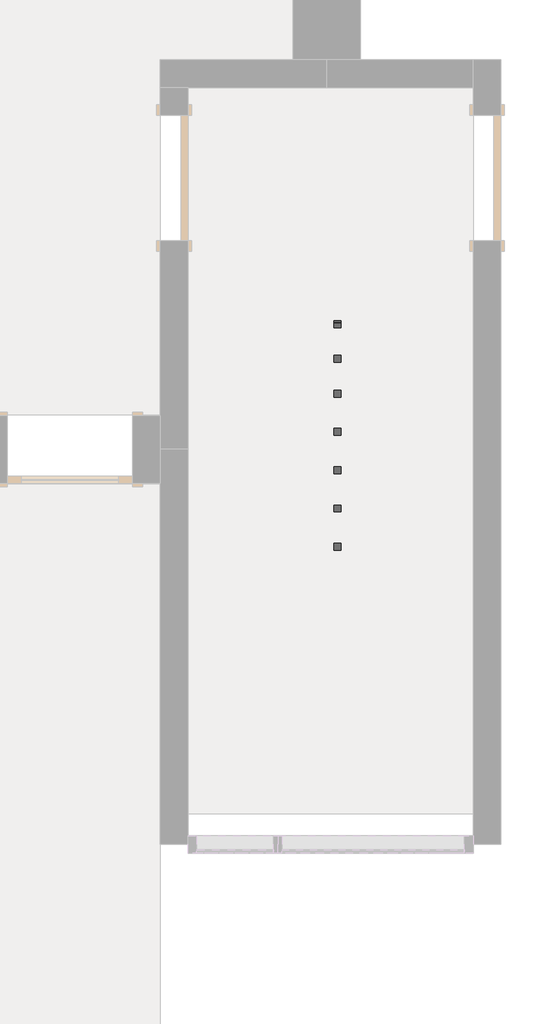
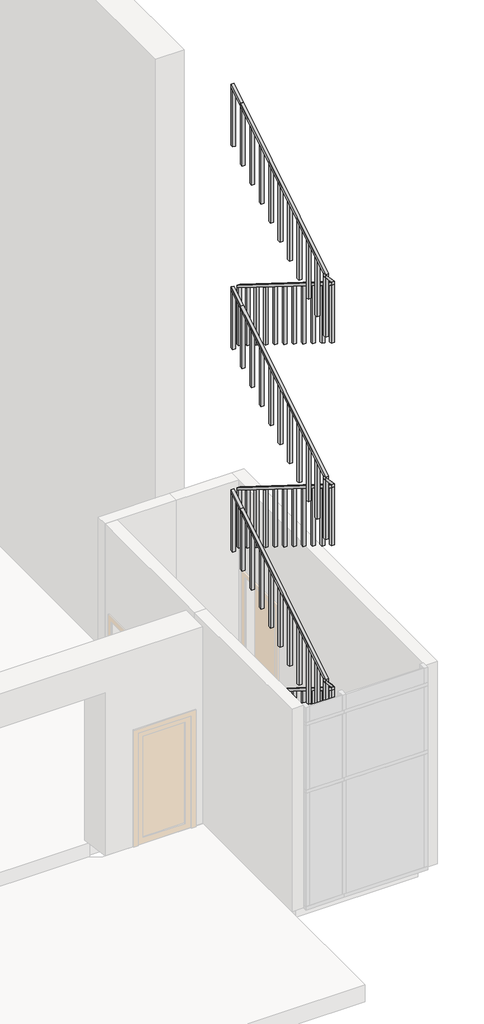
# One storey, part 4 of 4: 1 railing.
"""IFC4 building model written with IfcOpenShell, lengths in millimetres."""

from ifc_helpers import new_model, si_unit, frame, origin, place, context, project, spatial, polyline, outline, extrude, element, save

model = new_model("IFC4")

# Units and contexts
model_context = context("Model", 3, world=origin())
ifc_project = project(units=[si_unit("LENGTHUNIT", "METRE", prefix="MILLI")], contexts=[model_context])

# Site, building, storey
site = spatial("IfcSite", under=ifc_project)
building = spatial("IfcBuilding", under=site)
storey = spatial("IfcBuildingStorey", under=building, Name="1st Flr. Cnst.", Elevation=0.0)

# Railing
placement = place(None, origin())
element("IfcRailing", 1, ObjectType="Stairs Railing 1", at=placement, inside=storey, context=model_context, shape_type="SweptSolid", body=[
    extrude(outline(polyline([(-4763.1115872, 10247.0857143), (-4763.1115872, 10297.8857143), (-1969.1115872, 8556.1714286), (-1969.1115872, 8505.3714286), (-4763.1115872, 10247.0857143)])), frame((16839.9969357, 0.0, 0.0), z_axis=(1.0, 0.0, 0.0), x_axis=(0.0, 1.0, 0.0)), (0.0, 0.0, 1.0), 50.8),
    extrude(outline(polyline([(-1969.1115872, 8505.3714286), (-1969.1115872, 7489.3714286), (-2019.9115872, 7489.3714286), (-2019.9115872, 8537.038961), (-1969.1115872, 8505.3714286)])), frame((16839.9969357, 0.0, 0.0), z_axis=(1.0, 0.0, 0.0), x_axis=(0.0, 1.0, 0.0)), (0.0, 0.0, 1.0), 50.8),
    extrude(outline(polyline([(-2223.1115872, 8663.7090909), (-2223.1115872, 7647.7090909), (-2273.9115872, 7647.7090909), (-2273.9115872, 8695.3766234), (-2223.1115872, 8663.7090909)])), frame((16839.9969357, 0.0, 0.0), z_axis=(1.0, 0.0, 0.0), x_axis=(0.0, 1.0, 0.0)), (0.0, 0.0, 1.0), 50.8),
    extrude(outline(polyline([(-2477.1115872, 8822.0467532), (-2477.1115872, 7806.0467532), (-2527.9115872, 7806.0467532), (-2527.9115872, 8853.7142857), (-2477.1115872, 8822.0467532)])), frame((16839.9969357, 0.0, 0.0), z_axis=(1.0, 0.0, 0.0), x_axis=(0.0, 1.0, 0.0)), (0.0, 0.0, 1.0), 50.8),
    extrude(outline(polyline([(-2756.5115872, 8996.2181818), (-2756.5115872, 7980.2181818), (-2807.3115872, 7980.2181818), (-2807.3115872, 9027.8857143), (-2756.5115872, 8996.2181818)])), frame((16839.9969357, 0.0, 0.0), z_axis=(1.0, 0.0, 0.0), x_axis=(0.0, 1.0, 0.0)), (0.0, 0.0, 1.0), 50.8),
    extrude(outline(polyline([(-3035.9115872, 9170.3896104), (-3035.9115872, 8154.3896104), (-3086.7115872, 8154.3896104), (-3086.7115872, 9202.0571429), (-3035.9115872, 9170.3896104)])), frame((16839.9969357, 0.0, 0.0), z_axis=(1.0, 0.0, 0.0), x_axis=(0.0, 1.0, 0.0)), (0.0, 0.0, 1.0), 50.8),
    extrude(outline(polyline([(-3315.3115872, 9344.561039), (-3315.3115872, 8328.561039), (-3366.1115872, 8328.561039), (-3366.1115872, 9376.2285714), (-3315.3115872, 9344.561039)])), frame((16839.9969357, 0.0, 0.0), z_axis=(1.0, 0.0, 0.0), x_axis=(0.0, 1.0, 0.0)), (0.0, 0.0, 1.0), 50.8),
    extrude(outline(polyline([(-3594.7115872, 9518.7324675), (-3594.7115872, 8502.7324675), (-3645.5115872, 8502.7324675), (-3645.5115872, 9550.4), (-3594.7115872, 9518.7324675)])), frame((16839.9969357, 0.0, 0.0), z_axis=(1.0, 0.0, 0.0), x_axis=(0.0, 1.0, 0.0)), (0.0, 0.0, 1.0), 50.8),
    extrude(outline(polyline([(-3874.1115872, 9692.9038961), (-3874.1115872, 8676.9038961), (-3924.9115872, 8676.9038961), (-3924.9115872, 9724.5714286), (-3874.1115872, 9692.9038961)])), frame((16839.9969357, 0.0, 0.0), z_axis=(1.0, 0.0, 0.0), x_axis=(0.0, 1.0, 0.0)), (0.0, 0.0, 1.0), 50.8),
    extrude(outline(polyline([(-4153.5115872, 9867.0753247), (-4153.5115872, 8851.0753247), (-4204.3115872, 8851.0753247), (-4204.3115872, 9898.7428571), (-4153.5115872, 9867.0753247)])), frame((16839.9969357, 0.0, 0.0), z_axis=(1.0, 0.0, 0.0), x_axis=(0.0, 1.0, 0.0)), (0.0, 0.0, 1.0), 50.8),
    extrude(outline(polyline([(-4432.9115872, 10041.2467532), (-4432.9115872, 9025.2467532), (-4483.7115872, 9025.2467532), (-4483.7115872, 10072.9142857), (-4432.9115872, 10041.2467532)])), frame((16839.9969357, 0.0, 0.0), z_axis=(1.0, 0.0, 0.0), x_axis=(0.0, 1.0, 0.0)), (0.0, 0.0, 1.0), 50.8),
    extrude(outline(polyline([(-4712.3115872, 10215.4181818), (-4712.3115872, 9199.4181818), (-4763.1115872, 9199.4181818), (-4763.1115872, 10247.0857143), (-4712.3115872, 10215.4181818)])), frame((16839.9969357, 0.0, 0.0), z_axis=(1.0, 0.0, 0.0), x_axis=(0.0, 1.0, 0.0)), (0.0, 0.0, 1.0), 50.8),
    extrude(outline(polyline([(10472.0571429, 16738.3969357), (10421.2571429, 16738.3969357), (10247.0857143, 16890.7969357), (10297.8857143, 16890.7969357), (10472.0571429, 16738.3969357)])), frame((0.0, -4763.1115872, 0.0), z_axis=(0.0, 1.0, 0.0), x_axis=(0.0, 0.0, 1.0)), (0.0, 0.0, 1.0), 50.8),
    extrude(outline(polyline([(10414.0, 16744.7469357), (10414.0, 16738.3969357), (9347.2, 16738.3969357), (9347.2, 16789.1969357), (10363.2, 16789.1969357), (10414.0, 16744.7469357)])), frame((0.0, -4763.1115872, 0.0), z_axis=(0.0, 1.0, 0.0), x_axis=(0.0, 0.0, 1.0)), (0.0, 0.0, 1.0), 50.8),
    extrude(outline(polyline([(-2248.5115872, 12039.6), (-2248.5115872, 11988.8), (-4763.1115872, 10421.2571429), (-4763.1115872, 10472.0571429), (-2248.5115872, 12039.6)])), frame((16738.3969357, 0.0, 0.0), z_axis=(1.0, 0.0, 0.0), x_axis=(0.0, 1.0, 0.0)), (0.0, 0.0, 1.0), 50.8),
    extrude(outline(polyline([(-4458.3115872, 10611.2623377), (-4458.3115872, 9563.5948052), (-4509.1115872, 9563.5948052), (-4509.1115872, 10579.5948052), (-4458.3115872, 10611.2623377)])), frame((16738.3969357, 0.0, 0.0), z_axis=(1.0, 0.0, 0.0), x_axis=(0.0, 1.0, 0.0)), (0.0, 0.0, 1.0), 50.8),
    extrude(outline(polyline([(-4204.3115872, 10769.6), (-4204.3115872, 9721.9324675), (-4255.1115872, 9721.9324675), (-4255.1115872, 10737.9324675), (-4204.3115872, 10769.6)])), frame((16738.3969357, 0.0, 0.0), z_axis=(1.0, 0.0, 0.0), x_axis=(0.0, 1.0, 0.0)), (0.0, 0.0, 1.0), 50.8),
    extrude(outline(polyline([(-3924.9115872, 10943.7714286), (-3924.9115872, 9896.1038961), (-3975.7115872, 9896.1038961), (-3975.7115872, 10912.1038961), (-3924.9115872, 10943.7714286)])), frame((16738.3969357, 0.0, 0.0), z_axis=(1.0, 0.0, 0.0), x_axis=(0.0, 1.0, 0.0)), (0.0, 0.0, 1.0), 50.8),
    extrude(outline(polyline([(-3645.5115872, 11117.9428571), (-3645.5115872, 10070.2753247), (-3696.3115872, 10070.2753247), (-3696.3115872, 11086.2753247), (-3645.5115872, 11117.9428571)])), frame((16738.3969357, 0.0, 0.0), z_axis=(1.0, 0.0, 0.0), x_axis=(0.0, 1.0, 0.0)), (0.0, 0.0, 1.0), 50.8),
    extrude(outline(polyline([(-3366.1115872, 11292.1142857), (-3366.1115872, 10244.4467532), (-3416.9115872, 10244.4467532), (-3416.9115872, 11260.4467532), (-3366.1115872, 11292.1142857)])), frame((16738.3969357, 0.0, 0.0), z_axis=(1.0, 0.0, 0.0), x_axis=(0.0, 1.0, 0.0)), (0.0, 0.0, 1.0), 50.8),
    extrude(outline(polyline([(-3086.7115872, 11466.2857143), (-3086.7115872, 10418.6181818), (-3137.5115872, 10418.6181818), (-3137.5115872, 11434.6181818), (-3086.7115872, 11466.2857143)])), frame((16738.3969357, 0.0, 0.0), z_axis=(1.0, 0.0, 0.0), x_axis=(0.0, 1.0, 0.0)), (0.0, 0.0, 1.0), 50.8),
    extrude(outline(polyline([(-2807.3115872, 11640.4571429), (-2807.3115872, 10592.7896104), (-2858.1115872, 10592.7896104), (-2858.1115872, 11608.7896104), (-2807.3115872, 11640.4571429)])), frame((16738.3969357, 0.0, 0.0), z_axis=(1.0, 0.0, 0.0), x_axis=(0.0, 1.0, 0.0)), (0.0, 0.0, 1.0), 50.8),
    extrude(outline(polyline([(-2527.9115872, 11814.6285714), (-2527.9115872, 10766.961039), (-2578.7115872, 10766.961039), (-2578.7115872, 11782.961039), (-2527.9115872, 11814.6285714)])), frame((16738.3969357, 0.0, 0.0), z_axis=(1.0, 0.0, 0.0), x_axis=(0.0, 1.0, 0.0)), (0.0, 0.0, 1.0), 50.8),
    extrude(outline(polyline([(-2248.5115872, 11988.8), (-2248.5115872, 10941.1324675), (-2299.3115872, 10941.1324675), (-2299.3115872, 11957.1324675), (-2248.5115872, 11988.8)])), frame((16738.3969357, 0.0, 0.0), z_axis=(1.0, 0.0, 0.0), x_axis=(0.0, 1.0, 0.0)), (0.0, 0.0, 1.0), 50.8),
    extrude(outline(polyline([(-1969.1115872, 12213.7714286), (-1969.1115872, 12162.9714286), (-2248.5115872, 11988.8), (-2248.5115872, 12039.6), (-1969.1115872, 12213.7714286)])), frame((16738.3969357, 0.0, 0.0), z_axis=(1.0, 0.0, 0.0), x_axis=(0.0, 1.0, 0.0)), (0.0, 0.0, 1.0), 50.8),
    extrude(outline(polyline([(-1969.1115872, 12162.9714286), (-1969.1115872, 11115.3038961), (-2019.9115872, 11115.3038961), (-2019.9115872, 12131.3038961), (-1969.1115872, 12162.9714286)])), frame((16738.3969357, 0.0, 0.0), z_axis=(1.0, 0.0, 0.0), x_axis=(0.0, 1.0, 0.0)), (0.0, 0.0, 1.0), 50.8),
    extrude(outline(polyline([(-4763.1115872, 6589.4857143), (-4763.1115872, 6640.2857143), (-1969.1115872, 4898.5714286), (-1969.1115872, 4847.7714286), (-4763.1115872, 6589.4857143)])), frame((16839.9969357, 0.0, 0.0), z_axis=(1.0, 0.0, 0.0), x_axis=(0.0, 1.0, 0.0)), (0.0, 0.0, 1.0), 50.8),
    extrude(outline(polyline([(-1969.1115872, 4847.7714286), (-1969.1115872, 3831.7714286), (-2019.9115872, 3831.7714286), (-2019.9115872, 4879.438961), (-1969.1115872, 4847.7714286)])), frame((16839.9969357, 0.0, 0.0), z_axis=(1.0, 0.0, 0.0), x_axis=(0.0, 1.0, 0.0)), (0.0, 0.0, 1.0), 50.8),
    extrude(outline(polyline([(-2223.1115872, 5006.1090909), (-2223.1115872, 3990.1090909), (-2273.9115872, 3990.1090909), (-2273.9115872, 5037.7766234), (-2223.1115872, 5006.1090909)])), frame((16839.9969357, 0.0, 0.0), z_axis=(1.0, 0.0, 0.0), x_axis=(0.0, 1.0, 0.0)), (0.0, 0.0, 1.0), 50.8),
    extrude(outline(polyline([(-2477.1115872, 5164.4467532), (-2477.1115872, 4148.4467532), (-2527.9115872, 4148.4467532), (-2527.9115872, 5196.1142857), (-2477.1115872, 5164.4467532)])), frame((16839.9969357, 0.0, 0.0), z_axis=(1.0, 0.0, 0.0), x_axis=(0.0, 1.0, 0.0)), (0.0, 0.0, 1.0), 50.8),
    extrude(outline(polyline([(-2756.5115872, 5338.6181818), (-2756.5115872, 4322.6181818), (-2807.3115872, 4322.6181818), (-2807.3115872, 5370.2857143), (-2756.5115872, 5338.6181818)])), frame((16839.9969357, 0.0, 0.0), z_axis=(1.0, 0.0, 0.0), x_axis=(0.0, 1.0, 0.0)), (0.0, 0.0, 1.0), 50.8),
    extrude(outline(polyline([(-3035.9115872, 5512.7896104), (-3035.9115872, 4496.7896104), (-3086.7115872, 4496.7896104), (-3086.7115872, 5544.4571429), (-3035.9115872, 5512.7896104)])), frame((16839.9969357, 0.0, 0.0), z_axis=(1.0, 0.0, 0.0), x_axis=(0.0, 1.0, 0.0)), (0.0, 0.0, 1.0), 50.8),
    extrude(outline(polyline([(-3315.3115872, 5686.961039), (-3315.3115872, 4670.961039), (-3366.1115872, 4670.961039), (-3366.1115872, 5718.6285714), (-3315.3115872, 5686.961039)])), frame((16839.9969357, 0.0, 0.0), z_axis=(1.0, 0.0, 0.0), x_axis=(0.0, 1.0, 0.0)), (0.0, 0.0, 1.0), 50.8),
    extrude(outline(polyline([(-3594.7115872, 5861.1324675), (-3594.7115872, 4845.1324675), (-3645.5115872, 4845.1324675), (-3645.5115872, 5892.8), (-3594.7115872, 5861.1324675)])), frame((16839.9969357, 0.0, 0.0), z_axis=(1.0, 0.0, 0.0), x_axis=(0.0, 1.0, 0.0)), (0.0, 0.0, 1.0), 50.8),
    extrude(outline(polyline([(-3874.1115872, 6035.3038961), (-3874.1115872, 5019.3038961), (-3924.9115872, 5019.3038961), (-3924.9115872, 6066.9714286), (-3874.1115872, 6035.3038961)])), frame((16839.9969357, 0.0, 0.0), z_axis=(1.0, 0.0, 0.0), x_axis=(0.0, 1.0, 0.0)), (0.0, 0.0, 1.0), 50.8),
    extrude(outline(polyline([(-4153.5115872, 6209.4753247), (-4153.5115872, 5193.4753247), (-4204.3115872, 5193.4753247), (-4204.3115872, 6241.1428571), (-4153.5115872, 6209.4753247)])), frame((16839.9969357, 0.0, 0.0), z_axis=(1.0, 0.0, 0.0), x_axis=(0.0, 1.0, 0.0)), (0.0, 0.0, 1.0), 50.8),
    extrude(outline(polyline([(-4432.9115872, 6383.6467532), (-4432.9115872, 5367.6467532), (-4483.7115872, 5367.6467532), (-4483.7115872, 6415.3142857), (-4432.9115872, 6383.6467532)])), frame((16839.9969357, 0.0, 0.0), z_axis=(1.0, 0.0, 0.0), x_axis=(0.0, 1.0, 0.0)), (0.0, 0.0, 1.0), 50.8),
    extrude(outline(polyline([(-4712.3115872, 6557.8181818), (-4712.3115872, 5541.8181818), (-4763.1115872, 5541.8181818), (-4763.1115872, 6589.4857143), (-4712.3115872, 6557.8181818)])), frame((16839.9969357, 0.0, 0.0), z_axis=(1.0, 0.0, 0.0), x_axis=(0.0, 1.0, 0.0)), (0.0, 0.0, 1.0), 50.8),
    extrude(outline(polyline([(6814.4571429, 16738.3969357), (6763.6571429, 16738.3969357), (6589.4857143, 16890.7969357), (6640.2857143, 16890.7969357), (6814.4571429, 16738.3969357)])), frame((0.0, -4763.1115872, 0.0), z_axis=(0.0, 1.0, 0.0), x_axis=(0.0, 0.0, 1.0)), (0.0, 0.0, 1.0), 50.8),
    extrude(outline(polyline([(6756.4, 16744.7469357), (6756.4, 16738.3969357), (5689.6, 16738.3969357), (5689.6, 16789.1969357), (6705.6, 16789.1969357), (6756.4, 16744.7469357)])), frame((0.0, -4763.1115872, 0.0), z_axis=(0.0, 1.0, 0.0), x_axis=(0.0, 0.0, 1.0)), (0.0, 0.0, 1.0), 50.8),
    extrude(outline(polyline([(-2248.5115872, 8382.0), (-2248.5115872, 8331.2), (-4763.1115872, 6763.6571429), (-4763.1115872, 6814.4571429), (-2248.5115872, 8382.0)])), frame((16738.3969357, 0.0, 0.0), z_axis=(1.0, 0.0, 0.0), x_axis=(0.0, 1.0, 0.0)), (0.0, 0.0, 1.0), 50.8),
    extrude(outline(polyline([(-4458.3115872, 6953.6623377), (-4458.3115872, 5905.9948052), (-4509.1115872, 5905.9948052), (-4509.1115872, 6921.9948052), (-4458.3115872, 6953.6623377)])), frame((16738.3969357, 0.0, 0.0), z_axis=(1.0, 0.0, 0.0), x_axis=(0.0, 1.0, 0.0)), (0.0, 0.0, 1.0), 50.8),
    extrude(outline(polyline([(-4204.3115872, 7112.0), (-4204.3115872, 6064.3324675), (-4255.1115872, 6064.3324675), (-4255.1115872, 7080.3324675), (-4204.3115872, 7112.0)])), frame((16738.3969357, 0.0, 0.0), z_axis=(1.0, 0.0, 0.0), x_axis=(0.0, 1.0, 0.0)), (0.0, 0.0, 1.0), 50.8),
    extrude(outline(polyline([(-3924.9115872, 7286.1714286), (-3924.9115872, 6238.5038961), (-3975.7115872, 6238.5038961), (-3975.7115872, 7254.5038961), (-3924.9115872, 7286.1714286)])), frame((16738.3969357, 0.0, 0.0), z_axis=(1.0, 0.0, 0.0), x_axis=(0.0, 1.0, 0.0)), (0.0, 0.0, 1.0), 50.8),
    extrude(outline(polyline([(-3645.5115872, 7460.3428571), (-3645.5115872, 6412.6753247), (-3696.3115872, 6412.6753247), (-3696.3115872, 7428.6753247), (-3645.5115872, 7460.3428571)])), frame((16738.3969357, 0.0, 0.0), z_axis=(1.0, 0.0, 0.0), x_axis=(0.0, 1.0, 0.0)), (0.0, 0.0, 1.0), 50.8),
    extrude(outline(polyline([(-3366.1115872, 7634.5142857), (-3366.1115872, 6586.8467532), (-3416.9115872, 6586.8467532), (-3416.9115872, 7602.8467532), (-3366.1115872, 7634.5142857)])), frame((16738.3969357, 0.0, 0.0), z_axis=(1.0, 0.0, 0.0), x_axis=(0.0, 1.0, 0.0)), (0.0, 0.0, 1.0), 50.8),
    extrude(outline(polyline([(-3086.7115872, 7808.6857143), (-3086.7115872, 6761.0181818), (-3137.5115872, 6761.0181818), (-3137.5115872, 7777.0181818), (-3086.7115872, 7808.6857143)])), frame((16738.3969357, 0.0, 0.0), z_axis=(1.0, 0.0, 0.0), x_axis=(0.0, 1.0, 0.0)), (0.0, 0.0, 1.0), 50.8),
    extrude(outline(polyline([(-2807.3115872, 7982.8571429), (-2807.3115872, 6935.1896104), (-2858.1115872, 6935.1896104), (-2858.1115872, 7951.1896104), (-2807.3115872, 7982.8571429)])), frame((16738.3969357, 0.0, 0.0), z_axis=(1.0, 0.0, 0.0), x_axis=(0.0, 1.0, 0.0)), (0.0, 0.0, 1.0), 50.8),
    extrude(outline(polyline([(-2527.9115872, 8157.0285714), (-2527.9115872, 7109.361039), (-2578.7115872, 7109.361039), (-2578.7115872, 8125.361039), (-2527.9115872, 8157.0285714)])), frame((16738.3969357, 0.0, 0.0), z_axis=(1.0, 0.0, 0.0), x_axis=(0.0, 1.0, 0.0)), (0.0, 0.0, 1.0), 50.8),
    extrude(outline(polyline([(-2248.5115872, 8331.2), (-2248.5115872, 7283.5324675), (-2299.3115872, 7283.5324675), (-2299.3115872, 8299.5324675), (-2248.5115872, 8331.2)])), frame((16738.3969357, 0.0, 0.0), z_axis=(1.0, 0.0, 0.0), x_axis=(0.0, 1.0, 0.0)), (0.0, 0.0, 1.0), 50.8),
    extrude(outline(polyline([(-1969.1115872, 8556.1714286), (-1969.1115872, 8505.3714286), (-2248.5115872, 8331.2), (-2248.5115872, 8382.0), (-1969.1115872, 8556.1714286)])), frame((16738.3969357, 0.0, 0.0), z_axis=(1.0, 0.0, 0.0), x_axis=(0.0, 1.0, 0.0)), (0.0, 0.0, 1.0), 50.8),
    extrude(outline(polyline([(-1969.1115872, 8505.3714286), (-1969.1115872, 7457.7038961), (-2019.9115872, 7457.7038961), (-2019.9115872, 8473.7038961), (-1969.1115872, 8505.3714286)])), frame((16738.3969357, 0.0, 0.0), z_axis=(1.0, 0.0, 0.0), x_axis=(0.0, 1.0, 0.0)), (0.0, 0.0, 1.0), 50.8),
    extrude(outline(polyline([(-4763.1115872, 2931.8857143), (-4763.1115872, 2982.6857143), (-1969.1115872, 1240.9714286), (-1969.1115872, 1190.1714286), (-4763.1115872, 2931.8857143)])), frame((16839.9969357, 0.0, 0.0), z_axis=(1.0, 0.0, 0.0), x_axis=(0.0, 1.0, 0.0)), (0.0, 0.0, 1.0), 50.8),
    extrude(outline(polyline([(-1969.1115872, 1190.1714286), (-1969.1115872, 174.1714286), (-2019.9115872, 174.1714286), (-2019.9115872, 1221.838961), (-1969.1115872, 1190.1714286)])), frame((16839.9969357, 0.0, 0.0), z_axis=(1.0, 0.0, 0.0), x_axis=(0.0, 1.0, 0.0)), (0.0, 0.0, 1.0), 50.8),
    extrude(outline(polyline([(-2223.1115872, 1348.5090909), (-2223.1115872, 332.5090909), (-2273.9115872, 332.5090909), (-2273.9115872, 1380.1766234), (-2223.1115872, 1348.5090909)])), frame((16839.9969357, 0.0, 0.0), z_axis=(1.0, 0.0, 0.0), x_axis=(0.0, 1.0, 0.0)), (0.0, 0.0, 1.0), 50.8),
    extrude(outline(polyline([(-2477.1115872, 1506.8467532), (-2477.1115872, 490.8467532), (-2527.9115872, 490.8467532), (-2527.9115872, 1538.5142857), (-2477.1115872, 1506.8467532)])), frame((16839.9969357, 0.0, 0.0), z_axis=(1.0, 0.0, 0.0), x_axis=(0.0, 1.0, 0.0)), (0.0, 0.0, 1.0), 50.8),
    extrude(outline(polyline([(-2756.5115872, 1681.0181818), (-2756.5115872, 665.0181818), (-2807.3115872, 665.0181818), (-2807.3115872, 1712.6857143), (-2756.5115872, 1681.0181818)])), frame((16839.9969357, 0.0, 0.0), z_axis=(1.0, 0.0, 0.0), x_axis=(0.0, 1.0, 0.0)), (0.0, 0.0, 1.0), 50.8),
    extrude(outline(polyline([(-3035.9115872, 1855.1896104), (-3035.9115872, 839.1896104), (-3086.7115872, 839.1896104), (-3086.7115872, 1886.8571429), (-3035.9115872, 1855.1896104)])), frame((16839.9969357, 0.0, 0.0), z_axis=(1.0, 0.0, 0.0), x_axis=(0.0, 1.0, 0.0)), (0.0, 0.0, 1.0), 50.8),
    extrude(outline(polyline([(-3315.3115872, 2029.361039), (-3315.3115872, 1013.361039), (-3366.1115872, 1013.361039), (-3366.1115872, 2061.0285714), (-3315.3115872, 2029.361039)])), frame((16839.9969357, 0.0, 0.0), z_axis=(1.0, 0.0, 0.0), x_axis=(0.0, 1.0, 0.0)), (0.0, 0.0, 1.0), 50.8),
    extrude(outline(polyline([(-3594.7115872, 2203.5324675), (-3594.7115872, 1187.5324675), (-3645.5115872, 1187.5324675), (-3645.5115872, 2235.2), (-3594.7115872, 2203.5324675)])), frame((16839.9969357, 0.0, 0.0), z_axis=(1.0, 0.0, 0.0), x_axis=(0.0, 1.0, 0.0)), (0.0, 0.0, 1.0), 50.8),
    extrude(outline(polyline([(-3874.1115872, 2377.7038961), (-3874.1115872, 1361.7038961), (-3924.9115872, 1361.7038961), (-3924.9115872, 2409.3714286), (-3874.1115872, 2377.7038961)])), frame((16839.9969357, 0.0, 0.0), z_axis=(1.0, 0.0, 0.0), x_axis=(0.0, 1.0, 0.0)), (0.0, 0.0, 1.0), 50.8),
    extrude(outline(polyline([(-4153.5115872, 2551.8753247), (-4153.5115872, 1535.8753247), (-4204.3115872, 1535.8753247), (-4204.3115872, 2583.5428571), (-4153.5115872, 2551.8753247)])), frame((16839.9969357, 0.0, 0.0), z_axis=(1.0, 0.0, 0.0), x_axis=(0.0, 1.0, 0.0)), (0.0, 0.0, 1.0), 50.8),
    extrude(outline(polyline([(-4432.9115872, 2726.0467532), (-4432.9115872, 1710.0467532), (-4483.7115872, 1710.0467532), (-4483.7115872, 2757.7142857), (-4432.9115872, 2726.0467532)])), frame((16839.9969357, 0.0, 0.0), z_axis=(1.0, 0.0, 0.0), x_axis=(0.0, 1.0, 0.0)), (0.0, 0.0, 1.0), 50.8),
    extrude(outline(polyline([(-4712.3115872, 2900.2181818), (-4712.3115872, 1884.2181818), (-4763.1115872, 1884.2181818), (-4763.1115872, 2931.8857143), (-4712.3115872, 2900.2181818)])), frame((16839.9969357, 0.0, 0.0), z_axis=(1.0, 0.0, 0.0), x_axis=(0.0, 1.0, 0.0)), (0.0, 0.0, 1.0), 50.8),
    extrude(outline(polyline([(3156.8571429, 16738.3969357), (3106.0571429, 16738.3969357), (2931.8857143, 16890.7969357), (2982.6857143, 16890.7969357), (3156.8571429, 16738.3969357)])), frame((0.0, -4763.1115872, 0.0), z_axis=(0.0, 1.0, 0.0), x_axis=(0.0, 0.0, 1.0)), (0.0, 0.0, 1.0), 50.8),
    extrude(outline(polyline([(3098.8, 16744.7469357), (3098.8, 16738.3969357), (2032.0, 16738.3969357), (2032.0, 16789.1969357), (3048.0, 16789.1969357), (3098.8, 16744.7469357)])), frame((0.0, -4763.1115872, 0.0), z_axis=(0.0, 1.0, 0.0), x_axis=(0.0, 0.0, 1.0)), (0.0, 0.0, 1.0), 50.8),
    extrude(outline(polyline([(-2248.5115872, 4724.4), (-2248.5115872, 4673.6), (-4763.1115872, 3106.0571429), (-4763.1115872, 3156.8571429), (-2248.5115872, 4724.4)])), frame((16738.3969357, 0.0, 0.0), z_axis=(1.0, 0.0, 0.0), x_axis=(0.0, 1.0, 0.0)), (0.0, 0.0, 1.0), 50.8),
    extrude(outline(polyline([(-4458.3115872, 3296.0623377), (-4458.3115872, 2248.3948052), (-4509.1115872, 2248.3948052), (-4509.1115872, 3264.3948052), (-4458.3115872, 3296.0623377)])), frame((16738.3969357, 0.0, 0.0), z_axis=(1.0, 0.0, 0.0), x_axis=(0.0, 1.0, 0.0)), (0.0, 0.0, 1.0), 50.8),
    extrude(outline(polyline([(-4204.3115872, 3454.4), (-4204.3115872, 2406.7324675), (-4255.1115872, 2406.7324675), (-4255.1115872, 3422.7324675), (-4204.3115872, 3454.4)])), frame((16738.3969357, 0.0, 0.0), z_axis=(1.0, 0.0, 0.0), x_axis=(0.0, 1.0, 0.0)), (0.0, 0.0, 1.0), 50.8),
    extrude(outline(polyline([(-3924.9115872, 3628.5714286), (-3924.9115872, 2580.9038961), (-3975.7115872, 2580.9038961), (-3975.7115872, 3596.9038961), (-3924.9115872, 3628.5714286)])), frame((16738.3969357, 0.0, 0.0), z_axis=(1.0, 0.0, 0.0), x_axis=(0.0, 1.0, 0.0)), (0.0, 0.0, 1.0), 50.8),
    extrude(outline(polyline([(-3645.5115872, 3802.7428571), (-3645.5115872, 2755.0753247), (-3696.3115872, 2755.0753247), (-3696.3115872, 3771.0753247), (-3645.5115872, 3802.7428571)])), frame((16738.3969357, 0.0, 0.0), z_axis=(1.0, 0.0, 0.0), x_axis=(0.0, 1.0, 0.0)), (0.0, 0.0, 1.0), 50.8),
    extrude(outline(polyline([(-3366.1115872, 3976.9142857), (-3366.1115872, 2929.2467532), (-3416.9115872, 2929.2467532), (-3416.9115872, 3945.2467532), (-3366.1115872, 3976.9142857)])), frame((16738.3969357, 0.0, 0.0), z_axis=(1.0, 0.0, 0.0), x_axis=(0.0, 1.0, 0.0)), (0.0, 0.0, 1.0), 50.8),
    extrude(outline(polyline([(-3086.7115872, 4151.0857143), (-3086.7115872, 3103.4181818), (-3137.5115872, 3103.4181818), (-3137.5115872, 4119.4181818), (-3086.7115872, 4151.0857143)])), frame((16738.3969357, 0.0, 0.0), z_axis=(1.0, 0.0, 0.0), x_axis=(0.0, 1.0, 0.0)), (0.0, 0.0, 1.0), 50.8),
    extrude(outline(polyline([(-2807.3115872, 4325.2571429), (-2807.3115872, 3277.5896104), (-2858.1115872, 3277.5896104), (-2858.1115872, 4293.5896104), (-2807.3115872, 4325.2571429)])), frame((16738.3969357, 0.0, 0.0), z_axis=(1.0, 0.0, 0.0), x_axis=(0.0, 1.0, 0.0)), (0.0, 0.0, 1.0), 50.8),
    extrude(outline(polyline([(-2527.9115872, 4499.4285714), (-2527.9115872, 3451.761039), (-2578.7115872, 3451.761039), (-2578.7115872, 4467.761039), (-2527.9115872, 4499.4285714)])), frame((16738.3969357, 0.0, 0.0), z_axis=(1.0, 0.0, 0.0), x_axis=(0.0, 1.0, 0.0)), (0.0, 0.0, 1.0), 50.8),
    extrude(outline(polyline([(-2248.5115872, 4673.6), (-2248.5115872, 3625.9324675), (-2299.3115872, 3625.9324675), (-2299.3115872, 4641.9324675), (-2248.5115872, 4673.6)])), frame((16738.3969357, 0.0, 0.0), z_axis=(1.0, 0.0, 0.0), x_axis=(0.0, 1.0, 0.0)), (0.0, 0.0, 1.0), 50.8),
    extrude(outline(polyline([(-1969.1115872, 4898.5714286), (-1969.1115872, 4847.7714286), (-2248.5115872, 4673.6), (-2248.5115872, 4724.4), (-1969.1115872, 4898.5714286)])), frame((16738.3969357, 0.0, 0.0), z_axis=(1.0, 0.0, 0.0), x_axis=(0.0, 1.0, 0.0)), (0.0, 0.0, 1.0), 50.8),
    extrude(outline(polyline([(-1969.1115872, 4847.7714286), (-1969.1115872, 3800.1038961), (-2019.9115872, 3800.1038961), (-2019.9115872, 4816.1038961), (-1969.1115872, 4847.7714286)])), frame((16738.3969357, 0.0, 0.0), z_axis=(1.0, 0.0, 0.0), x_axis=(0.0, 1.0, 0.0)), (0.0, 0.0, 1.0), 50.8),
])

save(model, "model.ifc")
